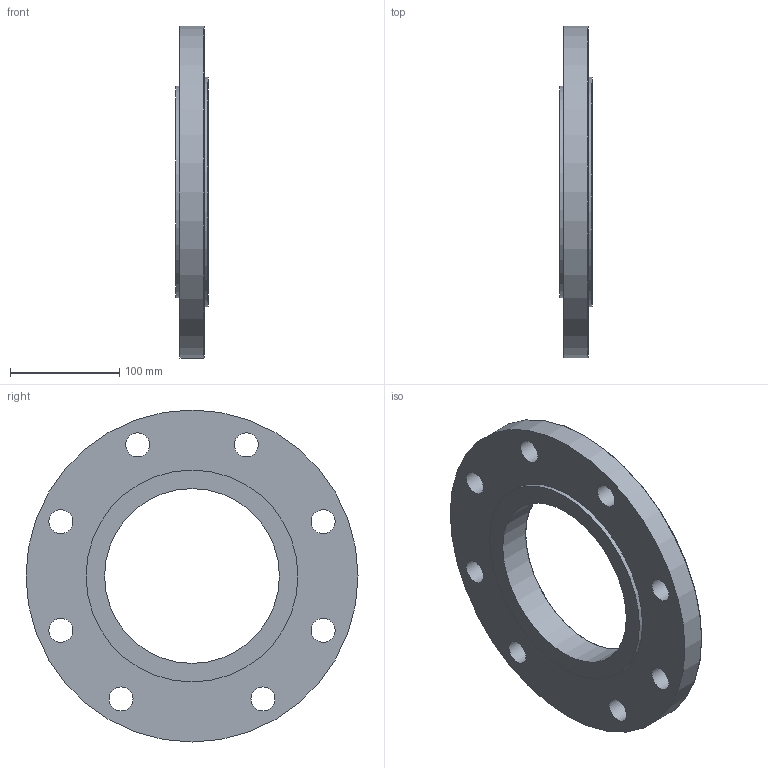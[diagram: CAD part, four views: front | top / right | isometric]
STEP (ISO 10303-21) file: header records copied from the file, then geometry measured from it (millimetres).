
FILE_DESCRIPTION((''),'2;1');
FILE_NAME('D:\PAWEŁ\ZLECENIA\2011 DualSystem\001 Modele\DKAB100_\DK_100_STEP\AZ_100.stp','2012-05-14T22:47:44',('admin'),(''),'Autodesk Inventor 2009','Autodesk Inventor 2009','');
FILE_SCHEMA(('AUTOMOTIVE_DESIGN { 1 0 10303 214 1 1 1 1 }'));
Length unit declared in the file: millimetre
Products named in the file (1): AZ_100
Bounding box: 30 x 304 x 304 mm (x, y, z)
Volume: 1183405.2 mm3; surface area: 151604.8 mm2
Topology: 1 solids, 1 shells, 20 faces, 52 edges, 36 vertices
Faces by surface type: bspline 9, cylinder 4, plane 4, torus 3
Full cylindrical faces by diameter (mm): 160 x1, 194 x1, 210 x1, 304 x1
Entity records: 690 total; most frequent: CARTESIAN_POINT 257, DIRECTION 80, ORIENTED_EDGE 56, EDGE_LOOP 56, AXIS2_PLACEMENT_3D 40, FACE_BOUND 36, VERTEX_POINT 28, CIRCLE 28
